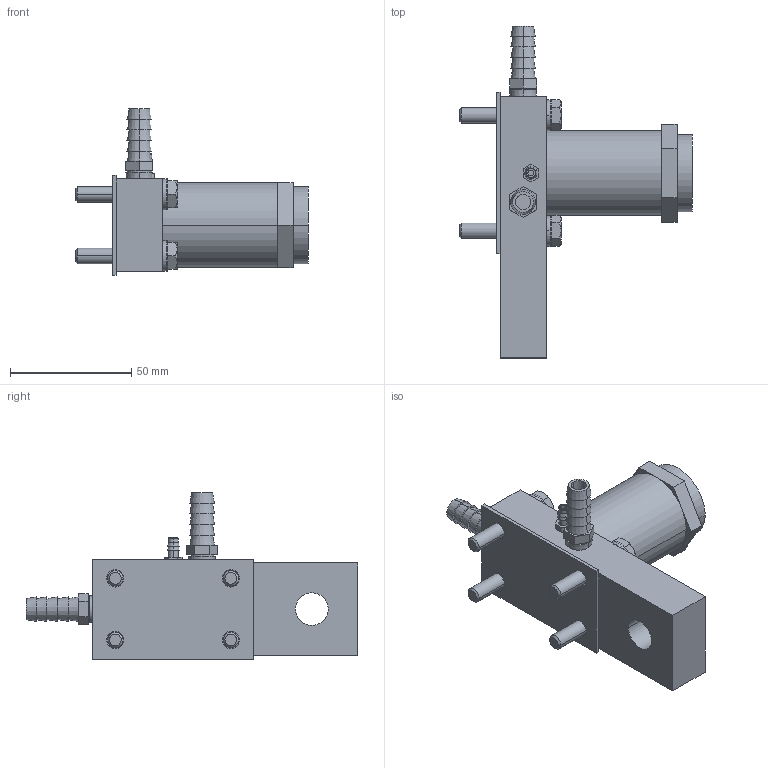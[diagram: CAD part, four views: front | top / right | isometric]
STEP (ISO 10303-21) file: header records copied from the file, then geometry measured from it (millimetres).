
FILE_DESCRIPTION((''),'2;1');
FILE_NAME('UH3_ASM','2017-08-24T',('jennifer.elliott'),('CenterLine (Windsor) Ltd - Automation Components Division'),'PRO/ENGINEER BY PARAMETRIC TECHNOLOGY CORPORATION, 2015030','PRO/ENGINEER BY PARAMETRIC TECHNOLOGY CORPORATION, 2015030','');
FILE_SCHEMA(('AUTOMOTIVE_DESIGN { 1 0 10303 214 1 1 1 1 }'));
Length unit declared in the file: inch
Products named in the file (21): PRT0215; PRT0216; PRT0217; PRT0218; PRT0219; PRT0220; PRT0221; PRT0222; PRT0223; PRT0224; PRT0225; PRT0226; PRT0227; PRT0228; PRT0229; PRT0230; PRT0231; PRT0232; PRT0233; PRT0234; UH3_ASM
Assembly tree (20 placements, depth 2):
  UH3_ASM
    PRT0215
    PRT0216
    PRT0217
    PRT0218
    PRT0219
    PRT0220
    PRT0221
    PRT0222
    PRT0223
    PRT0224
    PRT0225
    PRT0226
    PRT0227
    PRT0228
    PRT0229
    PRT0230
    PRT0231
    PRT0232
    PRT0233
    PRT0234
Bounding box: 96.08 x 136.91 x 68.64 mm (x, y, z)
Volume: 143346.7 mm3; surface area: 46391 mm2
Topology: 20 solids, 20 shells, 269 faces, 578 edges, 374 vertices
Faces by surface type: plane 121, cylinder 84, cone 60, torus 4
Entity records: 8930 total; most frequent: CARTESIAN_POINT 1575, DIRECTION 1416, ORIENTED_EDGE 1156, EDGE_CURVE 578, AXIS2_PLACEMENT_3D 576, VERTEX_POINT 374, EDGE_LOOP 334, FACE_OUTER_BOUND 269
